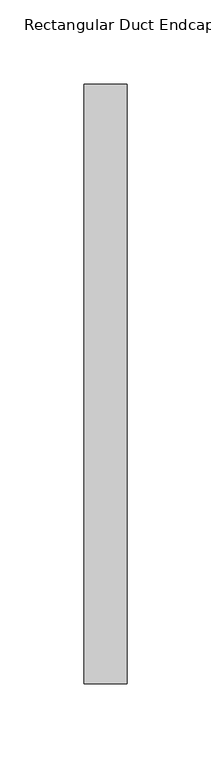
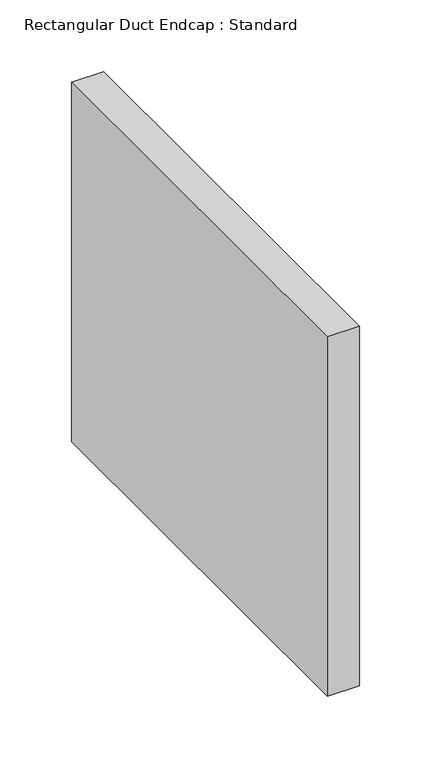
"""IFC4 building model written with IfcOpenShell, lengths in millimetres: duct fitting geometry, Rectangular Duct Endcap : Standard."""

from ifc_helpers import new_model, si_unit, frame, origin, place, context, project, spatial, polyline, outline, extrude, source, transform, mapped, element, save


def rectangular_duct_endcap_standard_acce21dd(model_context):
    return source(origin(), model_context, "Body", "SweptSolid", [
        extrude(outline(polyline([(0.0, -177.8), (0.0, 177.8), (25.4, 177.8), (25.4, -177.8), (0.0, -177.8)])), frame((0.0, 0.0, -152.4), z_axis=(0.0, 0.0, 1.0), x_axis=(1.0, 0.0, 0.0)), (0.0, 0.0, 1.0), 304.8),
        extrude(outline(polyline([(0.0, -177.8), (0.0, 177.8), (25.4, 177.8), (25.4, -177.8), (0.0, -177.8)])), frame((0.0, 0.0, -152.4), z_axis=(0.0, 0.0, 1.0), x_axis=(1.0, 0.0, 0.0)), (0.0, 0.0, 1.0), 304.8),
        extrude(outline(polyline([(0.0, -177.8), (0.0, 177.8), (25.4, 177.8), (25.4, -177.8), (0.0, -177.8)])), frame((0.0, 0.0, -152.4), z_axis=(0.0, 0.0, 1.0), x_axis=(1.0, 0.0, 0.0)), (0.0, 0.0, 1.0), 304.8),
    ])


if __name__ == "__main__":
    model = new_model("IFC4")
    model_context = context("Model", 3, world=origin())
    ifc_project = project(units=[si_unit("LENGTHUNIT", "METRE", prefix="MILLI")], contexts=[model_context])
    site = spatial("IfcSite", under=ifc_project)
    building = spatial("IfcBuilding", under=site)
    placement = place(None, origin())
    rectangular_duct_endcap_standard_shape = rectangular_duct_endcap_standard_acce21dd(model_context)
    element("IfcDuctFitting", 1, ObjectType="Rectangular Duct Endcap : Standard", at=placement, inside=building, context=model_context, shape_type="MappedRepresentation", body=[
        mapped(rectangular_duct_endcap_standard_shape, transform((0.0, 0.0, 0.0), x_axis=(1.0, 0.0, 0.0), y_axis=(0.0, 1.0, 0.0), z_axis=(0.0, 0.0, 1.0))),
    ])
    save(model, "model.ifc")
